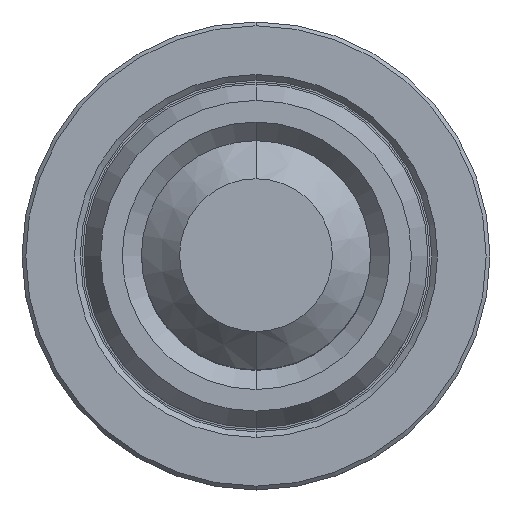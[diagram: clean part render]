
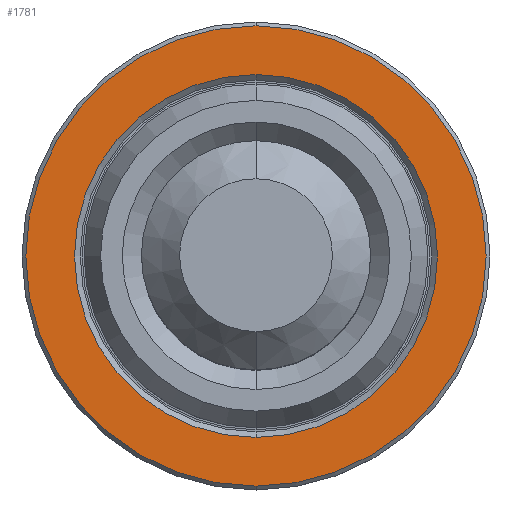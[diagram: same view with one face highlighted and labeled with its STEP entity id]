
A CAD part, top view. The second image highlights one B-rep face of the part: STEP entity #1781.
In plain terms, the highlighted planar face has unit normal (0, 0, 1).
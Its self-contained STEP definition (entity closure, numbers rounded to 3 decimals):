
#16 = FACE_BOUND ( 'NONE', #146, .T. ) ;
#55 = DIRECTION ( 'NONE',  ( 0., 0., 1. ) ) ;
#130 = VERTEX_POINT ( 'NONE', #1822 ) ;
#131 = FACE_OUTER_BOUND ( 'NONE', #1324, .T. ) ;
#140 = PLANE ( 'NONE',  #1268 ) ;
#141 = CARTESIAN_POINT ( 'NONE',  ( 0., 0., 0. ) ) ;
#146 = EDGE_LOOP ( 'NONE', ( #742, #983 ) ) ;
#266 = CIRCLE ( 'NONE', #508, 12.05 ) ;
#324 = DIRECTION ( 'NONE',  ( 0., 1., 0. ) ) ;
#408 = VERTEX_POINT ( 'NONE', #782 ) ;
#429 = CARTESIAN_POINT ( 'NONE',  ( 9., 0., 0. ) ) ;
#478 = AXIS2_PLACEMENT_3D ( 'NONE', #578, #1302, #324 ) ;
#503 = DIRECTION ( 'NONE',  ( 0., 0., -1. ) ) ;
#508 = AXIS2_PLACEMENT_3D ( 'NONE', #1283, #1736, #998 ) ;
#514 = EDGE_CURVE ( 'NONE', #1655, #408, #1440, .T. ) ;
#560 = VERTEX_POINT ( 'NONE', #1327 ) ;
#578 = CARTESIAN_POINT ( 'NONE',  ( 0., 0., 0. ) ) ;
#592 = DIRECTION ( 'NONE',  ( 0., -1., 0. ) ) ;
#630 = DIRECTION ( 'NONE',  ( 0., -1., 0. ) ) ;
#738 = DIRECTION ( 'NONE',  ( 0., 0., 1. ) ) ;
#742 = ORIENTED_EDGE ( 'NONE', *, *, #514, .T. ) ;
#781 = EDGE_CURVE ( 'NONE', #408, #1655, #1839, .T. ) ;
#782 = CARTESIAN_POINT ( 'NONE',  ( 0., 9.5, 0. ) ) ;
#819 = AXIS2_PLACEMENT_3D ( 'NONE', #952, #503, #1222 ) ;
#821 = CIRCLE ( 'NONE', #1843, 12.05 ) ;
#839 = CARTESIAN_POINT ( 'NONE',  ( 0., -9.5, 0. ) ) ;
#952 = CARTESIAN_POINT ( 'NONE',  ( 0., 0., 0. ) ) ;
#983 = ORIENTED_EDGE ( 'NONE', *, *, #781, .T. ) ;
#998 = DIRECTION ( 'NONE',  ( 0., -1., 0. ) ) ;
#1222 = DIRECTION ( 'NONE',  ( 0., 1., 0. ) ) ;
#1268 = AXIS2_PLACEMENT_3D ( 'NONE', #429, #738, #592 ) ;
#1283 = CARTESIAN_POINT ( 'NONE',  ( 0., 0., 0. ) ) ;
#1302 = DIRECTION ( 'NONE',  ( 0., 0., -1. ) ) ;
#1324 = EDGE_LOOP ( 'NONE', ( #1810, #1392 ) ) ;
#1327 = CARTESIAN_POINT ( 'NONE',  ( 0., 12.05, 0. ) ) ;
#1337 = EDGE_CURVE ( 'NONE', #130, #560, #266, .T. ) ;
#1392 = ORIENTED_EDGE ( 'NONE', *, *, #1337, .T. ) ;
#1429 = EDGE_CURVE ( 'NONE', #560, #130, #821, .T. ) ;
#1440 = CIRCLE ( 'NONE', #478, 9.5 ) ;
#1655 = VERTEX_POINT ( 'NONE', #839 ) ;
#1736 = DIRECTION ( 'NONE',  ( 0., 0., 1. ) ) ;
#1781 = ADVANCED_FACE ( 'NONE', ( #16, #131 ), #140, .T. ) ;
#1810 = ORIENTED_EDGE ( 'NONE', *, *, #1429, .T. ) ;
#1822 = CARTESIAN_POINT ( 'NONE',  ( 0., -12.05, 0. ) ) ;
#1839 = CIRCLE ( 'NONE', #819, 9.5 ) ;
#1843 = AXIS2_PLACEMENT_3D ( 'NONE', #141, #55, #630 ) ;
